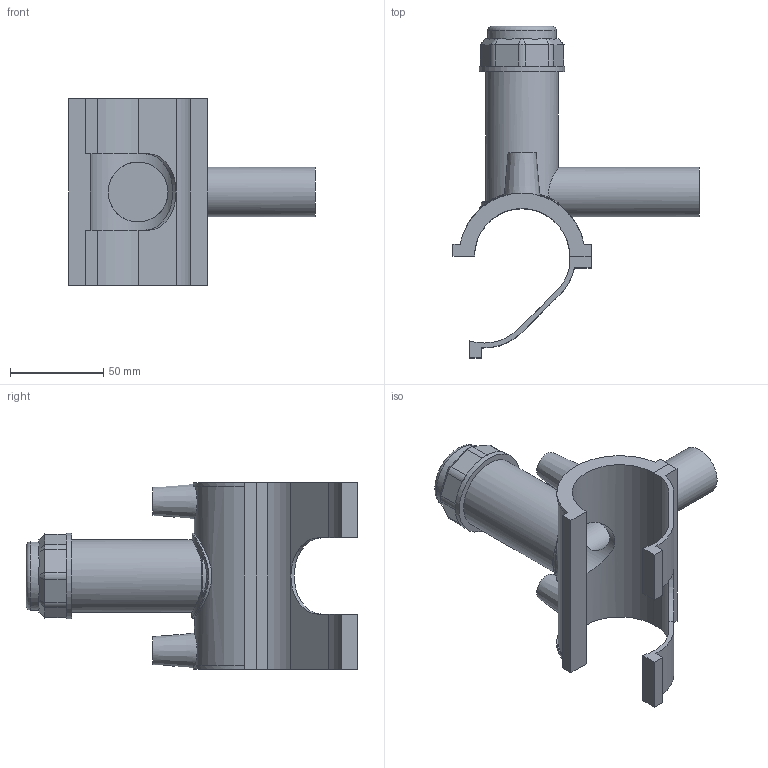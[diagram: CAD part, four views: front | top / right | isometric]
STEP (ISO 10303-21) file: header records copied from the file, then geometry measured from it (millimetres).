
FILE_DESCRIPTION(/* description */ ('PLASSON TAPPING SADDLE 1 1/2''''IPS x 1 3/4''''IPS'),/* implementation_level */ '2;1');
FILE_NAME(/* name */ 'C:\Dropbox\KIMPROJECTS-Inventor 2019\99-16-3568-Processing Inch\ASTM ElectroFusion 2021\5963B\5963BB03015007.ipt.stp',/* time_stamp */ '2021-08-30T09:54:53+03:00',/* author */ ('KIM'),/* organization */ (''),/* preprocessor_version */ 'ST-DEVELOPER v17.2',/* originating_system */ 'Autodesk Inventor 2019',/* authorisation */ '');
FILE_SCHEMA (('AUTOMOTIVE_DESIGN { 1 0 10303 214 3 1 1 }'));
Length unit declared in the file: millimetre
Products named in the file (1): 5963BB03015007
Bounding box: 132.08 x 178.11 x 100.08 mm (x, y, z)
Volume: 175139.4 mm3; surface area: 73159 mm2
Topology: 2 solids, 2 shells, 111 faces, 290 edges, 191 vertices
Faces by surface type: plane 66, cylinder 32, cone 11, torus 1, bspline 1
Full cylindrical faces by diameter (mm): 4 x2, 10 x2, 21.28 x1, 26.6 x1, 32.193 x1, 36.792 x1, 39.092 x1, 45.99 x1
Entity records: 3938 total; most frequent: CARTESIAN_POINT 1135, ORIENTED_EDGE 580, DIRECTION 577, EDGE_CURVE 290, AXIS2_PLACEMENT_3D 210, VERTEX_POINT 191, LINE 157, VECTOR 157
